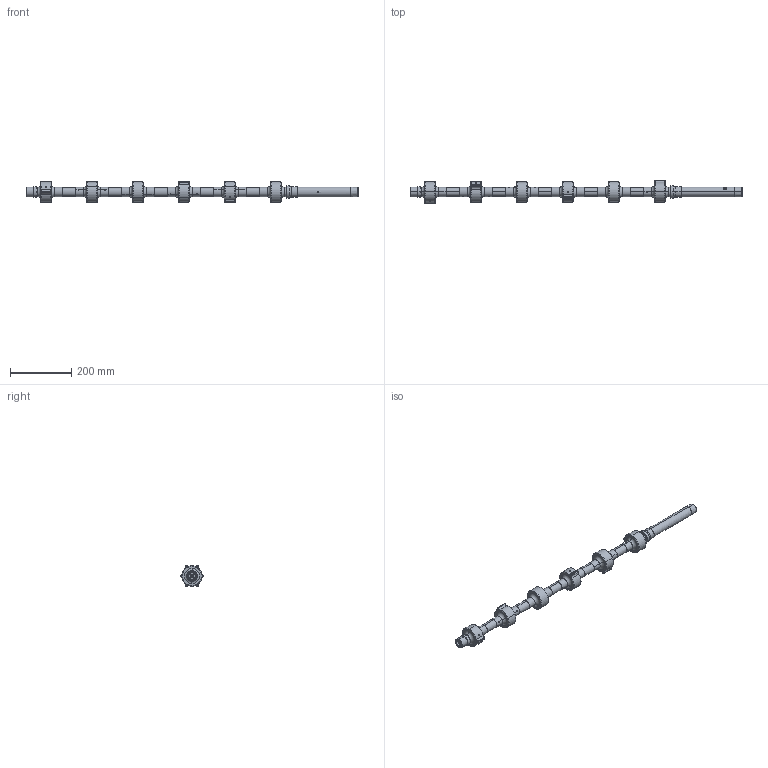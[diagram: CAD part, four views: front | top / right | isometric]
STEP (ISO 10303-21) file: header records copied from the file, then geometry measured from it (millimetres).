
FILE_DESCRIPTION (( 'STEP AP203' ), '1' );
FILE_NAME ('淏奀芧謫粣G5+瑩羞20260522.STEP', '2026-05-22T06:46:25', ( '' ), ( '' ), 'SwSTEP 2.0', 'SolidWorks 2022', '' );
FILE_SCHEMA (( 'CONFIG_CONTROL_DESIGN' ));
Length unit declared in the file: millimetre
Products named in the file (1): 正时凸轮轴G5+键槽20260522
Bounding box: 1083 x 78.09 x 69.48 mm (x, y, z)
Volume: 1339063.8 mm3; surface area: 187046.1 mm2
Topology: 1 solids, 1 shells, 355 faces, 858 edges, 497 vertices
Faces by surface type: cylinder 134, torus 114, bspline 56, plane 37, cone 14
Entity records: 16877 total; most frequent: CARTESIAN_POINT 8911, DIRECTION 1668, ORIENTED_EDGE 1664, EDGE_CURVE 832, AXIS2_PLACEMENT_3D 748, VERTEX_POINT 497, CIRCLE 448, EDGE_LOOP 409
